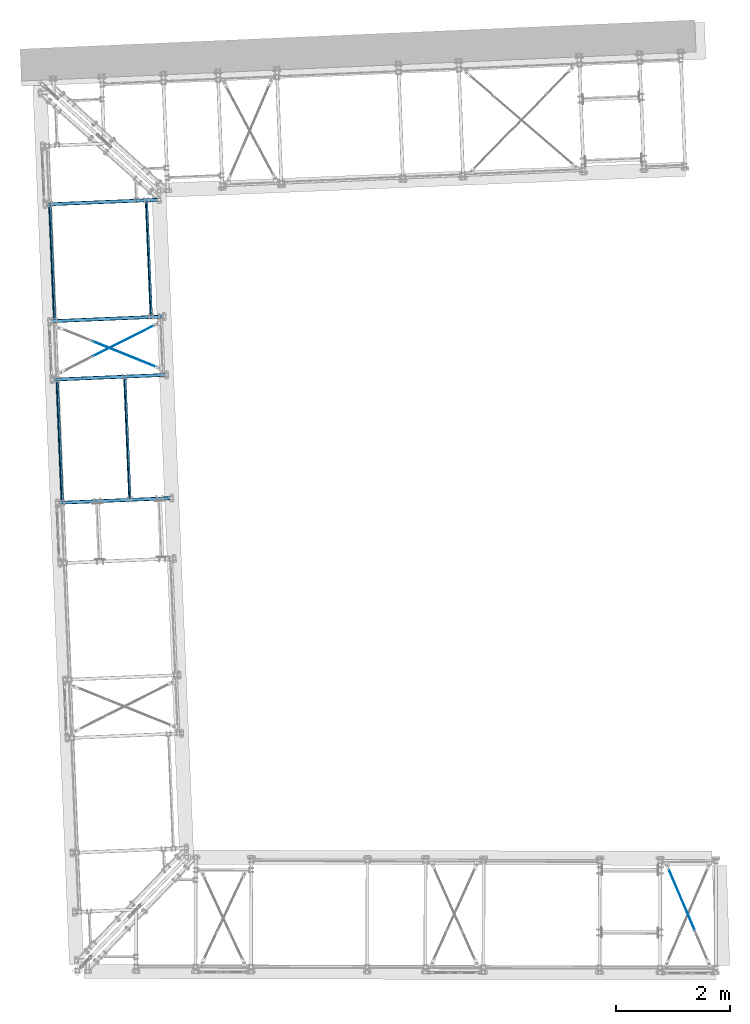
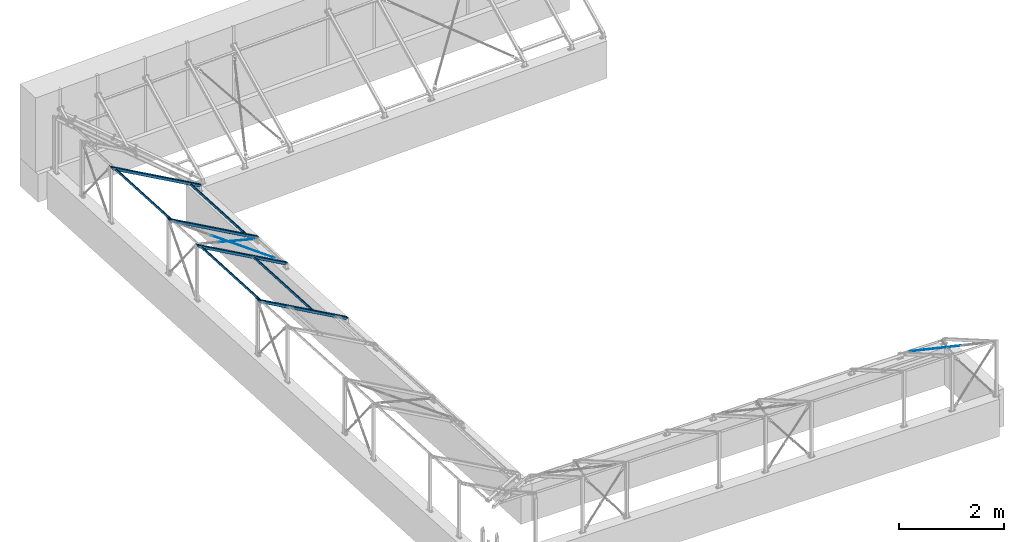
# One storey, part 13 of 288: 11 members, 52 openings.
"""IFC2X3 building model written with IfcOpenShell, lengths in millimetres."""

from ifc_helpers import new_model, entity, si_unit, converted_unit, frame, frame_2d, origin, origin_with_axes, origin_2d, place, context, project, spatial, hollow_rectangle, circle, extrude, clip, halfspace, material, element, save


model = new_model("IFC2X3")

# Units and contexts
model_context = context("Model", 3, precision=1e-09, world=origin_with_axes())
ifc_project = project(units=[si_unit("LENGTHUNIT", "METRE", prefix="MILLI"), si_unit("AREAUNIT", "SQUARE_METRE"), si_unit("VOLUMEUNIT", "CUBIC_METRE"), converted_unit("PLANEANGLEUNIT", "DEGREE", entity("IfcPlaneAngleMeasure", 0.01745329), si_unit("PLANEANGLEUNIT", "RADIAN"), dimensions=[0, 0, 0, 0, 0, 0, 0])], contexts=[model_context])

# Site, building, storey
site_placement = place(None, origin_with_axes())
site = spatial("IfcSite", under=ifc_project, at=site_placement, Name="Remont ?wietlik?w nad MC w NCPP w Opolu", CompositionType="ELEMENT")
building_placement = place(site_placement, origin_with_axes())
building = spatial("IfcBuilding", under=site, at=building_placement, Name="Konstrukcja 1", CompositionType="ELEMENT")
storey_placement = place(building_placement, origin_with_axes())
storey = spatial("IfcBuildingStorey", under=building, at=storey_placement, Name="Default Storey", CompositionType="ELEMENT", Elevation=0.0)

# Members
ifc_material_1 = material(Name="S235")
member_1_placement = place(None, frame((1184.094835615, 11400.041380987, 237.072428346), z_axis=(0.041662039, -0.99913176, -1.7445e-05), x_axis=(0.8652733, 0.036089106, -0.499999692)))
element("IfcMember", 1, at=member_1_placement, inside=storey, material=ifc_material_1, Name="TubeBracing", ObjectType="TubeBracing", context=model_context, shape_type="SweptSolid", body=[
    extrude(hollow_rectangle(XDim=40.0, YDim=40.0, WallThickness=3.0, InnerFilletRadius=3.0, OuterFilletRadius=6.0, at=origin_2d()), origin(), (0.0, 0.0, -1.0), 1973.670434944),
])
member_2_placement = place(None, frame((809.588399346, 8191.426792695, 533.692879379), z_axis=(0.041662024, -0.999131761, -1.7472e-05), x_axis=(0.8652733, 0.036089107, -0.499999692)))
element("IfcMember", 2, at=member_2_placement, inside=storey, material=ifc_material_1, Name="TubeBracing", ObjectType="TubeBracing", context=model_context, shape_type="SweptSolid", body=[
    extrude(hollow_rectangle(XDim=40.0, YDim=40.0, WallThickness=3.0, InnerFilletRadius=3.0, OuterFilletRadius=6.0, at=origin_2d()), origin(), (0.0, 0.0, -1.0), 2086.386549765),
])

# Member, openings
member_3_placement = place(None, frame((-626.530673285, 10258.763054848, 1312.4263718), z_axis=(0.8652733, 0.036089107, -0.499999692), x_axis=(-0.499565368, -0.020835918, -0.866025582)))
member_3 = element("IfcMember", 3, at=member_3_placement, inside=storey, material=ifc_material_1, Name="Horizontal_Beam", ObjectType="Horizontal_Beam", context=model_context, shape_type="Clipping", body=[
    clip(clip(extrude(hollow_rectangle(XDim=60.0, YDim=60.0, WallThickness=3.0, InnerFilletRadius=3.0, OuterFilletRadius=6.0, at=origin_2d()), origin(), (0.0, 0.0, 1.0), 2454.508604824), halfspace(frame((581.173489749, -10275.960605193, 1091.478625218), z_axis=(-0.866025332, 1.05e-07, 0.500000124), x_axis=(1.21e-07, 1.0, 0.0)), True)), halfspace(frame((1461.054439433, -10275.960711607, 1561.976205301), z_axis=(-0.500000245, 0.0, -0.866025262), x_axis=(-1.21e-07, -1.0, 0.0)), True)),
])
opening_1_placement = place(member_3_placement, frame((0.044184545, -26.499966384, 151.778169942), z_axis=(0.0, 1.0, 4.2e-07), x_axis=(-1.0, 0.0, 0.0)))
element("IfcOpeningElement", 4, at=opening_1_placement, cuts=member_3, ObjectType="Opening", context=model_context, shape_type="SweptSolid", body=[
    extrude(circle(Radius=7.001, at=frame_2d((-4e-09, -7.001), x_axis=(1.0, 0.0))), origin(), (0.0, 0.0, -1.0), 4.000039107),
])
opening_2_placement = place(member_3_placement, frame((0.044184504, -26.500000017, 231.778169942), z_axis=(0.0, 1.0, 4.2e-07), x_axis=(-1.0, 0.0, 0.0)))
element("IfcOpeningElement", 5, at=opening_2_placement, cuts=member_3, ObjectType="Opening", context=model_context, shape_type="SweptSolid", body=[
    extrude(circle(Radius=7.001, at=frame_2d((-4e-09, -7.001), x_axis=(1.0, 0.0))), origin(), (0.0, 0.0, -1.0), 4.000039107),
])
opening_3_placement = place(member_3_placement, frame((0.044184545, 30.500033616, 151.778193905), z_axis=(0.0, 1.0, 4.2e-07), x_axis=(-1.0, 0.0, 0.0)))
element("IfcOpeningElement", 6, at=opening_3_placement, cuts=member_3, ObjectType="Opening", context=model_context, shape_type="SweptSolid", body=[
    extrude(circle(Radius=7.001, at=frame_2d((-4e-09, -7.001), x_axis=(1.0, 0.0))), origin(), (0.0, 0.0, -1.0), 4.000039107),
])
opening_4_placement = place(member_3_placement, frame((0.044184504, 30.499999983, 231.778193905), z_axis=(0.0, 1.0, 4.2e-07), x_axis=(-1.0, 0.0, 0.0)))
element("IfcOpeningElement", 7, at=opening_4_placement, cuts=member_3, ObjectType="Opening", context=model_context, shape_type="SweptSolid", body=[
    extrude(circle(Radius=7.001, at=frame_2d((-4e-09, -7.001), x_axis=(1.0, 0.0))), origin(), (0.0, 0.0, -1.0), 4.000039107),
])
opening_5_placement = place(member_3_placement, frame((2.979524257, -26.499966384, 2312.551271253), z_axis=(0.0, 1.0, 4.2e-07), x_axis=(-1.0, 0.0, 0.0)))
element("IfcOpeningElement", 8, at=opening_5_placement, cuts=member_3, ObjectType="Opening", context=model_context, shape_type="SweptSolid", body=[
    extrude(circle(Radius=7.001, at=frame_2d((-4e-09, -7.001), x_axis=(1.0, 0.0))), origin(), (0.0, 0.0, -1.0), 4.000039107),
])
opening_6_placement = place(member_3_placement, frame((2.979524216, -26.500000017, 2392.551271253), z_axis=(0.0, 1.0, 4.2e-07), x_axis=(-1.0, 0.0, 0.0)))
element("IfcOpeningElement", 9, at=opening_6_placement, cuts=member_3, ObjectType="Opening", context=model_context, shape_type="SweptSolid", body=[
    extrude(circle(Radius=7.001, at=frame_2d((-4e-09, -7.001), x_axis=(1.0, 0.0))), origin(), (0.0, 0.0, -1.0), 4.000039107),
])
opening_7_placement = place(member_3_placement, frame((2.979524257, 30.500033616, 2312.551295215), z_axis=(0.0, 1.0, 4.2e-07), x_axis=(-1.0, 0.0, 0.0)))
element("IfcOpeningElement", 10, at=opening_7_placement, cuts=member_3, ObjectType="Opening", context=model_context, shape_type="SweptSolid", body=[
    extrude(circle(Radius=7.001, at=frame_2d((-4e-09, -7.001), x_axis=(1.0, 0.0))), origin(), (0.0, 0.0, -1.0), 4.000039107),
])
opening_8_placement = place(member_3_placement, frame((2.979524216, 30.499999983, 2392.551295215), z_axis=(0.0, 1.0, 4.2e-07), x_axis=(-1.0, 0.0, 0.0)))
element("IfcOpeningElement", 11, at=opening_8_placement, cuts=member_3, ObjectType="Opening", context=model_context, shape_type="SweptSolid", body=[
    extrude(circle(Radius=7.001, at=frame_2d((-4e-09, -7.001), x_axis=(1.0, 0.0))), origin(), (0.0, 0.0, -1.0), 4.000039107),
])
opening_9_placement = place(member_3_placement, frame((-0.073963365, -26.499966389, 1526.394681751), z_axis=(0.0, 1.0, 4.2e-07), x_axis=(-1.0, 0.0, 0.0)))
element("IfcOpeningElement", 12, at=opening_9_placement, cuts=member_3, ObjectType="Opening", context=model_context, shape_type="SweptSolid", body=[
    extrude(circle(Radius=9.001, at=frame_2d((-5e-09, -9.001), x_axis=(1.0, 0.0))), origin(), (0.0, 0.0, -1.0), 4.000040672),
])
opening_10_placement = place(member_3_placement, frame((-0.073963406, -26.500000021, 1606.394681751), z_axis=(0.0, 1.0, 4.2e-07), x_axis=(-1.0, 0.0, 0.0)))
element("IfcOpeningElement", 13, at=opening_10_placement, cuts=member_3, ObjectType="Opening", context=model_context, shape_type="SweptSolid", body=[
    extrude(circle(Radius=9.001, at=frame_2d((-5e-09, -9.001), x_axis=(1.0, 0.0))), origin(), (0.0, 0.0, -1.0), 4.000040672),
])
opening_11_placement = place(member_3_placement, frame((-0.073963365, 30.500033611, 1526.394705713), z_axis=(0.0, 1.0, 4.2e-07), x_axis=(-1.0, 0.0, 0.0)))
element("IfcOpeningElement", 14, at=opening_11_placement, cuts=member_3, ObjectType="Opening", context=model_context, shape_type="SweptSolid", body=[
    extrude(circle(Radius=9.001, at=frame_2d((-5e-09, -9.001), x_axis=(1.0, 0.0))), origin(), (0.0, 0.0, -1.0), 4.000040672),
])
opening_12_placement = place(member_3_placement, frame((-0.073963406, 30.499999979, 1606.394705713), z_axis=(0.0, 1.0, 4.2e-07), x_axis=(-1.0, 0.0, 0.0)))
element("IfcOpeningElement", 15, at=opening_12_placement, cuts=member_3, ObjectType="Opening", context=model_context, shape_type="SweptSolid", body=[
    extrude(circle(Radius=9.001, at=frame_2d((-5e-09, -9.001), x_axis=(1.0, 0.0))), origin(), (0.0, 0.0, -1.0), 4.000040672),
])

member_4_placement = place(None, frame((-669.279132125, 11283.707195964, 1312.426367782), z_axis=(0.865273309, 0.036088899, -0.499999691), x_axis=(-0.499565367, -0.020835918, -0.866025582)))
member_4 = element("IfcMember", 16, at=member_4_placement, inside=storey, material=ifc_material_1, Name="Horizontal_Beam", ObjectType="Horizontal_Beam", context=model_context, shape_type="Clipping", body=[
    clip(clip(extrude(hollow_rectangle(XDim=60.0, YDim=60.0, WallThickness=3.0, InnerFilletRadius=3.0, OuterFilletRadius=6.0, at=origin_2d()), origin(), (0.0, 0.0, 1.0), 2454.508596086), halfspace(frame((1461.053833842, -11301.795720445, 1561.97746317), z_axis=(-0.500000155, 0.0, -0.866025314), x_axis=(0.0, -1.0, 0.0)), True)), halfspace(frame((581.175383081, -11301.795719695, 1091.479682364), z_axis=(-0.866025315, 0.0, 0.500000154), x_axis=(0.0, 1.0, 0.0)), True)),
])
opening_13_placement = place(member_4_placement, frame((0.04418339, -26.499983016, 151.778168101), z_axis=(0.0, 1.0, 2.12e-07), x_axis=(-1.0, 0.0, 0.0)))
element("IfcOpeningElement", 17, at=opening_13_placement, cuts=member_4, ObjectType="Opening", context=model_context, shape_type="SweptSolid", body=[
    extrude(circle(Radius=7.001, at=frame_2d((0.0, -7.001), x_axis=(1.0, 0.0))), origin(), (0.0, 0.0, -1.0), 4.000019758),
])
opening_14_placement = place(member_4_placement, frame((0.04418339, -26.500000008, 231.778168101), z_axis=(0.0, 1.0, 2.12e-07), x_axis=(-1.0, 0.0, 0.0)))
element("IfcOpeningElement", 18, at=opening_14_placement, cuts=member_4, ObjectType="Opening", context=model_context, shape_type="SweptSolid", body=[
    extrude(circle(Radius=7.001, at=frame_2d((0.0, -7.001), x_axis=(1.0, 0.0))), origin(), (0.0, 0.0, -1.0), 4.000019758),
])
opening_15_placement = place(member_4_placement, frame((0.04418339, 30.500016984, 151.778180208), z_axis=(0.0, 1.0, 2.12e-07), x_axis=(-1.0, 0.0, 0.0)))
element("IfcOpeningElement", 19, at=opening_15_placement, cuts=member_4, ObjectType="Opening", context=model_context, shape_type="SweptSolid", body=[
    extrude(circle(Radius=7.001, at=frame_2d((0.0, -7.001), x_axis=(1.0, 0.0))), origin(), (0.0, 0.0, -1.0), 4.000019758),
])
opening_16_placement = place(member_4_placement, frame((0.04418339, 30.499999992, 231.778180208), z_axis=(0.0, 1.0, 2.12e-07), x_axis=(-1.0, 0.0, 0.0)))
element("IfcOpeningElement", 20, at=opening_16_placement, cuts=member_4, ObjectType="Opening", context=model_context, shape_type="SweptSolid", body=[
    extrude(circle(Radius=7.001, at=frame_2d((0.0, -7.001), x_axis=(1.0, 0.0))), origin(), (0.0, 0.0, -1.0), 4.000019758),
])
opening_17_placement = place(member_4_placement, frame((2.90592252, -26.499983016, 2312.551057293), z_axis=(0.0, 1.0, 2.12e-07), x_axis=(-1.0, 0.0, 0.0)))
element("IfcOpeningElement", 21, at=opening_17_placement, cuts=member_4, ObjectType="Opening", context=model_context, shape_type="SweptSolid", body=[
    extrude(circle(Radius=7.001, at=frame_2d((0.0, -7.001), x_axis=(1.0, 0.0))), origin(), (0.0, 0.0, -1.0), 4.000019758),
])
opening_18_placement = place(member_4_placement, frame((2.905922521, -26.500000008, 2392.551057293), z_axis=(0.0, 1.0, 2.12e-07), x_axis=(-1.0, 0.0, 0.0)))
element("IfcOpeningElement", 22, at=opening_18_placement, cuts=member_4, ObjectType="Opening", context=model_context, shape_type="SweptSolid", body=[
    extrude(circle(Radius=7.001, at=frame_2d((0.0, -7.001), x_axis=(1.0, 0.0))), origin(), (0.0, 0.0, -1.0), 4.000019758),
])
opening_19_placement = place(member_4_placement, frame((2.90592252, 30.500016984, 2312.5510694), z_axis=(0.0, 1.0, 2.12e-07), x_axis=(-1.0, 0.0, 0.0)))
element("IfcOpeningElement", 23, at=opening_19_placement, cuts=member_4, ObjectType="Opening", context=model_context, shape_type="SweptSolid", body=[
    extrude(circle(Radius=7.001, at=frame_2d((0.0, -7.001), x_axis=(1.0, 0.0))), origin(), (0.0, 0.0, -1.0), 4.000019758),
])
opening_20_placement = place(member_4_placement, frame((2.905922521, 30.499999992, 2392.5510694), z_axis=(0.0, 1.0, 2.12e-07), x_axis=(-1.0, 0.0, 0.0)))
element("IfcOpeningElement", 24, at=opening_20_placement, cuts=member_4, ObjectType="Opening", context=model_context, shape_type="SweptSolid", body=[
    extrude(circle(Radius=7.001, at=frame_2d((0.0, -7.001), x_axis=(1.0, 0.0))), origin(), (0.0, 0.0, -1.0), 4.000019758),
])
opening_21_placement = place(member_4_placement, frame((2.958952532, -26.499983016, 2112.551056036), z_axis=(0.0, 1.0, 2.12e-07), x_axis=(-1.0, 0.0, 0.0)))
element("IfcOpeningElement", 25, at=opening_21_placement, cuts=member_4, ObjectType="Opening", context=model_context, shape_type="SweptSolid", body=[
    extrude(circle(Radius=7.001, at=frame_2d((0.0, -7.001), x_axis=(1.0, 0.0))), origin(), (0.0, 0.0, -1.0), 4.000019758),
])
opening_22_placement = place(member_4_placement, frame((2.958952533, -26.500000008, 2192.551056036), z_axis=(0.0, 1.0, 2.12e-07), x_axis=(-1.0, 0.0, 0.0)))
element("IfcOpeningElement", 26, at=opening_22_placement, cuts=member_4, ObjectType="Opening", context=model_context, shape_type="SweptSolid", body=[
    extrude(circle(Radius=7.001, at=frame_2d((0.0, -7.001), x_axis=(1.0, 0.0))), origin(), (0.0, 0.0, -1.0), 4.000019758),
])
opening_23_placement = place(member_4_placement, frame((2.958952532, 30.500016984, 2112.551068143), z_axis=(0.0, 1.0, 2.12e-07), x_axis=(-1.0, 0.0, 0.0)))
element("IfcOpeningElement", 27, at=opening_23_placement, cuts=member_4, ObjectType="Opening", context=model_context, shape_type="SweptSolid", body=[
    extrude(circle(Radius=7.001, at=frame_2d((0.0, -7.001), x_axis=(1.0, 0.0))), origin(), (0.0, 0.0, -1.0), 4.000019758),
])
opening_24_placement = place(member_4_placement, frame((2.958952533, 30.499999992, 2192.551068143), z_axis=(0.0, 1.0, 2.12e-07), x_axis=(-1.0, 0.0, 0.0)))
element("IfcOpeningElement", 28, at=opening_24_placement, cuts=member_4, ObjectType="Opening", context=model_context, shape_type="SweptSolid", body=[
    extrude(circle(Radius=7.001, at=frame_2d((0.0, -7.001), x_axis=(1.0, 0.0))), origin(), (0.0, 0.0, -1.0), 4.000019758),
])

member_5_placement = place(None, frame((-754.77606115, 13333.595431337, 1312.426370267), z_axis=(0.865273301, 0.036089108, -0.499999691), x_axis=(-0.499565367, -0.020835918, -0.866025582)))
member_5 = element("IfcMember", 29, at=member_5_placement, inside=storey, material=ifc_material_1, Name="Horizontal_Beam", ObjectType="Horizontal_Beam", context=model_context, shape_type="Clipping", body=[
    clip(clip(extrude(hollow_rectangle(XDim=60.0, YDim=60.0, WallThickness=3.0, InnerFilletRadius=3.0, OuterFilletRadius=6.0, at=origin_2d()), origin(), (0.0, 0.0, 1.0), 2454.508604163), halfspace(frame((581.172913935, -13353.466255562, 1091.478291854), z_axis=(-0.866025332, 1.05e-07, 0.500000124), x_axis=(1.22e-07, 1.0, 0.0)), True)), halfspace(frame((1461.054630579, -13353.466362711, 1561.975871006), z_axis=(-0.500000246, 0.0, -0.866025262), x_axis=(-1.22e-07, -1.0, 0.0)), True)),
])
opening_25_placement = place(member_5_placement, frame((0.044183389, -26.499966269, 151.777520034), z_axis=(0.0, 1.0, 4.22e-07), x_axis=(-1.0, 0.0, 0.0)))
element("IfcOpeningElement", 30, at=opening_25_placement, cuts=member_5, ObjectType="Opening", context=model_context, shape_type="SweptSolid", body=[
    extrude(circle(Radius=7.001, at=frame_2d((0.0, -7.001), x_axis=(1.0, 0.0))), origin(), (0.0, 0.0, -1.0), 4.000039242),
])
opening_26_placement = place(member_5_placement, frame((0.044183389, -26.500000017, 231.777520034), z_axis=(0.0, 1.0, 4.22e-07), x_axis=(-1.0, 0.0, 0.0)))
element("IfcOpeningElement", 31, at=opening_26_placement, cuts=member_5, ObjectType="Opening", context=model_context, shape_type="SweptSolid", body=[
    extrude(circle(Radius=7.001, at=frame_2d((0.0, -7.001), x_axis=(1.0, 0.0))), origin(), (0.0, 0.0, -1.0), 4.000039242),
])
opening_27_placement = place(member_5_placement, frame((0.044183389, 30.500033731, 151.777544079), z_axis=(0.0, 1.0, 4.22e-07), x_axis=(-1.0, 0.0, 0.0)))
element("IfcOpeningElement", 32, at=opening_27_placement, cuts=member_5, ObjectType="Opening", context=model_context, shape_type="SweptSolid", body=[
    extrude(circle(Radius=7.001, at=frame_2d((0.0, -7.001), x_axis=(1.0, 0.0))), origin(), (0.0, 0.0, -1.0), 4.000039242),
])
opening_28_placement = place(member_5_placement, frame((0.044183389, 30.499999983, 231.777544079), z_axis=(0.0, 1.0, 4.22e-07), x_axis=(-1.0, 0.0, 0.0)))
element("IfcOpeningElement", 33, at=opening_28_placement, cuts=member_5, ObjectType="Opening", context=model_context, shape_type="SweptSolid", body=[
    extrude(circle(Radius=7.001, at=frame_2d((0.0, -7.001), x_axis=(1.0, 0.0))), origin(), (0.0, 0.0, -1.0), 4.000039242),
])
opening_29_placement = place(member_5_placement, frame((2.864380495, -26.499966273, 2114.550627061), z_axis=(0.0, 1.0, 4.22e-07), x_axis=(-1.0, 0.0, 0.0)))
element("IfcOpeningElement", 34, at=opening_29_placement, cuts=member_5, ObjectType="Opening", context=model_context, shape_type="SweptSolid", body=[
    extrude(circle(Radius=9.001, at=frame_2d((0.0, -9.001), x_axis=(1.0, 0.0))), origin(), (0.0, 0.0, -1.0), 4.000040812),
])
opening_30_placement = place(member_5_placement, frame((2.864380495, -26.500000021, 2194.550627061), z_axis=(0.0, 1.0, 4.22e-07), x_axis=(-1.0, 0.0, 0.0)))
element("IfcOpeningElement", 35, at=opening_30_placement, cuts=member_5, ObjectType="Opening", context=model_context, shape_type="SweptSolid", body=[
    extrude(circle(Radius=9.001, at=frame_2d((0.0, -9.001), x_axis=(1.0, 0.0))), origin(), (0.0, 0.0, -1.0), 4.000040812),
])
opening_31_placement = place(member_5_placement, frame((2.864380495, 30.500033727, 2114.550651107), z_axis=(0.0, 1.0, 4.22e-07), x_axis=(-1.0, 0.0, 0.0)))
element("IfcOpeningElement", 36, at=opening_31_placement, cuts=member_5, ObjectType="Opening", context=model_context, shape_type="SweptSolid", body=[
    extrude(circle(Radius=9.001, at=frame_2d((0.0, -9.001), x_axis=(1.0, 0.0))), origin(), (0.0, 0.0, -1.0), 4.000040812),
])
opening_32_placement = place(member_5_placement, frame((2.864380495, 30.499999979, 2194.550651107), z_axis=(0.0, 1.0, 4.22e-07), x_axis=(-1.0, 0.0, 0.0)))
element("IfcOpeningElement", 37, at=opening_32_placement, cuts=member_5, ObjectType="Opening", context=model_context, shape_type="SweptSolid", body=[
    extrude(circle(Radius=9.001, at=frame_2d((0.0, -9.001), x_axis=(1.0, 0.0))), origin(), (0.0, 0.0, -1.0), 4.000040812),
])
opening_33_placement = place(member_5_placement, frame((2.958952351, -26.499966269, 1912.55062711), z_axis=(0.0, 1.0, 4.22e-07), x_axis=(-1.0, 0.0, 0.0)))
element("IfcOpeningElement", 38, at=opening_33_placement, cuts=member_5, ObjectType="Opening", context=model_context, shape_type="SweptSolid", body=[
    extrude(circle(Radius=7.001, at=frame_2d((0.0, -7.001), x_axis=(1.0, 0.0))), origin(), (0.0, 0.0, -1.0), 4.000039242),
])
opening_34_placement = place(member_5_placement, frame((2.958952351, -26.500000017, 1992.55062711), z_axis=(0.0, 1.0, 4.22e-07), x_axis=(-1.0, 0.0, 0.0)))
element("IfcOpeningElement", 39, at=opening_34_placement, cuts=member_5, ObjectType="Opening", context=model_context, shape_type="SweptSolid", body=[
    extrude(circle(Radius=7.001, at=frame_2d((0.0, -7.001), x_axis=(1.0, 0.0))), origin(), (0.0, 0.0, -1.0), 4.000039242),
])
opening_35_placement = place(member_5_placement, frame((2.958952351, 30.500033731, 1912.550651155), z_axis=(0.0, 1.0, 4.22e-07), x_axis=(-1.0, 0.0, 0.0)))
element("IfcOpeningElement", 40, at=opening_35_placement, cuts=member_5, ObjectType="Opening", context=model_context, shape_type="SweptSolid", body=[
    extrude(circle(Radius=7.001, at=frame_2d((0.0, -7.001), x_axis=(1.0, 0.0))), origin(), (0.0, 0.0, -1.0), 4.000039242),
])
opening_36_placement = place(member_5_placement, frame((2.958952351, 30.499999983, 1992.550651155), z_axis=(0.0, 1.0, 4.22e-07), x_axis=(-1.0, 0.0, 0.0)))
element("IfcOpeningElement", 41, at=opening_36_placement, cuts=member_5, ObjectType="Opening", context=model_context, shape_type="SweptSolid", body=[
    extrude(circle(Radius=7.001, at=frame_2d((0.0, -7.001), x_axis=(1.0, 0.0))), origin(), (0.0, 0.0, -1.0), 4.000039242),
])

# Members
member_6_placement = place(None, frame((-511.011116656, 11329.342180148, 1220.056450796), z_axis=(0.041662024, -0.999131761, -1.7472e-05), x_axis=(0.8652733, 0.036089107, -0.499999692)))
element("IfcMember", 42, at=member_6_placement, inside=storey, material=ifc_material_1, Name="TubeBracing", ObjectType="TubeBracing", context=model_context, shape_type="SweptSolid", body=[
    extrude(hollow_rectangle(XDim=40.0, YDim=40.0, WallThickness=3.0, InnerFilletRadius=3.0, OuterFilletRadius=6.0, at=origin_2d()), origin(), (0.0, 0.0, -1.0), 1973.670434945),
])
member_7_placement = place(None, frame((-378.100020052, 8141.890288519, 1220.000712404), z_axis=(0.041662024, -0.999131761, -1.7472e-05), x_axis=(0.8652733, 0.036089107, -0.499999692)))
element("IfcMember", 43, at=member_7_placement, inside=storey, material=ifc_material_1, Name="TubeBracing", ObjectType="TubeBracing", context=model_context, shape_type="SweptSolid", body=[
    extrude(hollow_rectangle(XDim=40.0, YDim=40.0, WallThickness=3.0, InnerFilletRadius=3.0, OuterFilletRadius=6.0, at=origin_2d()), origin(), (0.0, 0.0, -1.0), 2086.386549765),
])

# Member, openings
member_8_placement = place(None, frame((-536.336659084, 8096.256630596, 1312.426370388), z_axis=(-0.865273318, -0.036088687, 0.499999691), x_axis=(-0.499565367, -0.020835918, -0.866025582)))
member_8 = element("IfcMember", 44, at=member_8_placement, inside=storey, material=ifc_material_1, Name="Horizontal_Beam", ObjectType="Horizontal_Beam", context=model_context, shape_type="Clipping", body=[
    clip(clip(extrude(hollow_rectangle(XDim=60.0, YDim=60.0, WallThickness=3.0, InnerFilletRadius=3.0, OuterFilletRadius=6.0, at=origin_2d()), origin(), (0.0, 0.0, -1.0), 2454.508604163), halfspace(frame((1461.053323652, 8111.573743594, -1561.978134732), z_axis=(-0.500000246, 0.0, 0.866025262), x_axis=(1.22e-07, 1.0, 0.0)), True)), halfspace(frame((581.176834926, 8111.573850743, -1091.480555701), z_axis=(-0.866025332, 1.05e-07, -0.500000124), x_axis=(-1.22e-07, -1.0, 0.0)), True)),
])
opening_37_placement = place(member_8_placement, frame((7.044933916, 26.499732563, -144.777628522), z_axis=(-2.0054e-05, -1.0, 4.2e-07), x_axis=(1.0, -2.0054e-05, 0.0)))
element("IfcOpeningElement", 45, at=opening_37_placement, cuts=member_8, ObjectType="Opening", context=model_context, shape_type="SweptSolid", body=[
    extrude(circle(Radius=7.001, at=frame_2d((-7.001, -4e-09), x_axis=(1.0, 0.0))), origin(), (0.0, 0.0, -1.0), 4.000264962),
])
opening_38_placement = place(member_8_placement, frame((7.043790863, -30.500267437, -144.77760456), z_axis=(-2.0054e-05, -1.0, 4.2e-07), x_axis=(1.0, -2.0054e-05, 0.0)))
element("IfcOpeningElement", 46, at=opening_38_placement, cuts=member_8, ObjectType="Opening", context=model_context, shape_type="SweptSolid", body=[
    extrude(circle(Radius=7.001, at=frame_2d((-7.001, -4e-09), x_axis=(1.0, 0.0))), origin(), (0.0, 0.0, -1.0), 4.000264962),
])
opening_39_placement = place(member_8_placement, frame((7.044933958, 26.499732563, -224.777628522), z_axis=(-2.0054e-05, -1.0, 4.2e-07), x_axis=(1.0, -2.0054e-05, 0.0)))
element("IfcOpeningElement", 47, at=opening_39_placement, cuts=member_8, ObjectType="Opening", context=model_context, shape_type="SweptSolid", body=[
    extrude(circle(Radius=7.001, at=frame_2d((-7.001, -4e-09), x_axis=(1.0, 0.0))), origin(), (0.0, 0.0, -1.0), 4.000264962),
])
opening_40_placement = place(member_8_placement, frame((7.043790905, -30.500267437, -224.77760456), z_axis=(-2.0054e-05, -1.0, 4.2e-07), x_axis=(1.0, -2.0054e-05, 0.0)))
element("IfcOpeningElement", 48, at=opening_40_placement, cuts=member_8, ObjectType="Opening", context=model_context, shape_type="SweptSolid", body=[
    extrude(circle(Radius=7.001, at=frame_2d((-7.001, -4e-09), x_axis=(1.0, 0.0))), origin(), (0.0, 0.0, -1.0), 4.000264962),
])
opening_41_placement = place(member_8_placement, frame((0.022928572, 26.5, -1524.395145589), z_axis=(0.0, -1.0, 0.0), x_axis=(1.0, 0.0, 0.0)))
element("IfcOpeningElement", 49, at=opening_41_placement, cuts=member_8, ObjectType="Opening", context=model_context, shape_type="SweptSolid", body=[
    extrude(circle(Radius=7.001, at=frame_2d((0.0, 7.001), x_axis=(1.0, 0.0))), origin(), (0.0, 0.0, -1.0), 4.0),
])
opening_42_placement = place(member_8_placement, frame((0.022928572, 26.5, -1604.395145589), z_axis=(0.0, -1.0, 0.0), x_axis=(1.0, 0.0, 0.0)))
element("IfcOpeningElement", 50, at=opening_42_placement, cuts=member_8, ObjectType="Opening", context=model_context, shape_type="SweptSolid", body=[
    extrude(circle(Radius=7.001, at=frame_2d((0.0, 7.001), x_axis=(1.0, 0.0))), origin(), (0.0, 0.0, -1.0), 4.0),
])
opening_43_placement = place(member_8_placement, frame((0.022928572, -30.5, -1524.395145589), z_axis=(0.0, -1.0, 0.0), x_axis=(1.0, 0.0, 0.0)))
element("IfcOpeningElement", 51, at=opening_43_placement, cuts=member_8, ObjectType="Opening", context=model_context, shape_type="SweptSolid", body=[
    extrude(circle(Radius=7.001, at=frame_2d((0.0, 7.001), x_axis=(1.0, 0.0))), origin(), (0.0, 0.0, -1.0), 4.0),
])
opening_44_placement = place(member_8_placement, frame((0.022928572, -30.5, -1604.395145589), z_axis=(0.0, -1.0, 0.0), x_axis=(1.0, 0.0, 0.0)))
element("IfcOpeningElement", 52, at=opening_44_placement, cuts=member_8, ObjectType="Opening", context=model_context, shape_type="SweptSolid", body=[
    extrude(circle(Radius=7.001, at=frame_2d((0.0, 7.001), x_axis=(1.0, 0.0))), origin(), (0.0, 0.0, -1.0), 4.0),
])
opening_45_placement = place(member_8_placement, frame((0.044184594, 26.5, -847.814419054), z_axis=(0.0, -1.0, 0.0), x_axis=(1.0, 0.0, 0.0)))
element("IfcOpeningElement", 53, at=opening_45_placement, cuts=member_8, ObjectType="Opening", context=model_context, shape_type="SweptSolid", body=[
    extrude(circle(Radius=9.001, at=frame_2d((0.0, 9.001), x_axis=(1.0, 0.0))), origin(), (0.0, 0.0, -1.0), 4.0),
])
opening_46_placement = place(member_8_placement, frame((0.044184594, 26.5, -967.814419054), z_axis=(0.0, -1.0, 0.0), x_axis=(1.0, 0.0, 0.0)))
element("IfcOpeningElement", 54, at=opening_46_placement, cuts=member_8, ObjectType="Opening", context=model_context, shape_type="SweptSolid", body=[
    extrude(circle(Radius=9.001, at=frame_2d((0.0, 9.001), x_axis=(1.0, 0.0))), origin(), (0.0, 0.0, -1.0), 4.0),
])
opening_47_placement = place(member_8_placement, frame((0.044184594, -30.5, -847.814419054), z_axis=(0.0, -1.0, 0.0), x_axis=(1.0, 0.0, 0.0)))
element("IfcOpeningElement", 55, at=opening_47_placement, cuts=member_8, ObjectType="Opening", context=model_context, shape_type="SweptSolid", body=[
    extrude(circle(Radius=9.001, at=frame_2d((0.0, 9.001), x_axis=(1.0, 0.0))), origin(), (0.0, 0.0, -1.0), 4.0),
])
opening_48_placement = place(member_8_placement, frame((0.044184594, -30.5, -967.814419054), z_axis=(0.0, -1.0, 0.0), x_axis=(1.0, 0.0, 0.0)))
element("IfcOpeningElement", 56, at=opening_48_placement, cuts=member_8, ObjectType="Opening", context=model_context, shape_type="SweptSolid", body=[
    extrude(circle(Radius=9.001, at=frame_2d((0.0, 9.001), x_axis=(1.0, 0.0))), origin(), (0.0, 0.0, -1.0), 4.0),
])
opening_49_placement = place(member_8_placement, frame((0.063877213, -30.5, -2158.813419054), z_axis=(0.0, 1.0, 0.0), x_axis=(0.0, 0.0, 1.0)))
element("IfcOpeningElement", 57, at=opening_49_placement, cuts=member_8, ObjectType="Opening", context=model_context, shape_type="SweptSolid", body=[
    extrude(circle(Radius=9.001, at=frame_2d((60.0, 0.0), x_axis=(1.0, 0.0))), origin(), (0.0, 0.0, 1.0), 4.0),
])
opening_50_placement = place(member_8_placement, frame((0.063877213, -30.5, -2158.813419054), z_axis=(0.0, 1.0, 0.0), x_axis=(0.0, 0.0, 1.0)))
element("IfcOpeningElement", 58, at=opening_50_placement, cuts=member_8, ObjectType="Opening", context=model_context, shape_type="SweptSolid", body=[
    extrude(circle(Radius=9.001, at=frame_2d((-60.0, 0.0), x_axis=(1.0, 0.0))), origin(), (0.0, 0.0, 1.0), 4.0),
])
opening_51_placement = place(member_8_placement, frame((0.063877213, 26.5, -2158.813419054), z_axis=(0.0, 1.0, 0.0), x_axis=(0.0, 0.0, 1.0)))
element("IfcOpeningElement", 59, at=opening_51_placement, cuts=member_8, ObjectType="Opening", context=model_context, shape_type="SweptSolid", body=[
    extrude(circle(Radius=9.001, at=frame_2d((60.0, 0.0), x_axis=(1.0, 0.0))), origin(), (0.0, 0.0, 1.0), 4.0),
])
opening_52_placement = place(member_8_placement, frame((0.063877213, 26.5, -2158.813419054), z_axis=(0.0, 1.0, 0.0), x_axis=(0.0, 0.0, 1.0)))
element("IfcOpeningElement", 60, at=opening_52_placement, cuts=member_8, ObjectType="Opening", context=model_context, shape_type="SweptSolid", body=[
    extrude(circle(Radius=9.001, at=frame_2d((-60.0, 0.0), x_axis=(1.0, 0.0))), origin(), (0.0, 0.0, 1.0), 4.0),
])

# Members
ifc_material_2 = material(Name="S275J2")
member_9_placement = place(None, frame((119.921081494, 10950.435121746, 873.317500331), z_axis=(-0.820057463, 0.331378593, 0.466576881), x_axis=(0.50076706, 0.020865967, 0.865330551)))
element("IfcMember", 61, at=member_9_placement, inside=storey, material=ifc_material_2, Name="Tension_Rod#2", ObjectType="Tension_Rod#2", context=model_context, shape_type="Clipping", body=[
    clip(clip(extrude(circle(Radius=6.0, at=origin_2d()), origin(), (0.0, 0.0, -1.0), 1550.159780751), halfspace(frame((-1044.252257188, -10202.540455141, -33.486281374), z_axis=(0.0, 0.0, -1.0), x_axis=(0.206963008, 0.978348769, 0.0)), True)), halfspace(frame((-1044.252257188, -10202.540455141, -1421.673499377), z_axis=(0.0, 0.0, 1.0), x_axis=(-0.206963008, -0.978348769, 0.0)), True)),
])
member_10_placement = place(None, frame((132.173680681, 10656.595343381, 873.312363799), z_axis=(-0.789622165, -0.398515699, 0.466564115), x_axis=(-0.500767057, -0.020865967, -0.865330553)))
element("IfcMember", 62, at=member_10_placement, inside=storey, material=ifc_material_2, Name="Tension_Rod#2", ObjectType="Tension_Rod#2", context=model_context, shape_type="Clipping", body=[
    clip(clip(extrude(circle(Radius=6.0, at=origin_2d()), origin(), (0.0, 0.0, -1.0), 1550.159781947), halfspace(frame((1044.252259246, 9884.315197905, -33.486281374), z_axis=(0.0, 0.0, -1.0), x_axis=(0.20699821, -0.978341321, 0.0)), True)), halfspace(frame((1044.252259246, 9884.315197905, -1421.673500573), z_axis=(0.0, 0.0, 1.0), x_axis=(-0.20699821, 0.978341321, 0.0)), True)),
])
member_11_placement = place(None, frame((10743.580495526, 556.853432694, 871.582241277), z_axis=(0.345362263, -0.812933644, 0.468896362), x_axis=(-0.001127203, -0.499998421, -0.866025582)))
element("IfcMember", 63, at=member_11_placement, inside=storey, material=ifc_material_2, Name="Tension_Rod#2", ObjectType="Tension_Rod#2", context=model_context, shape_type="Clipping", body=[
    clip(clip(extrude(circle(Radius=6.0, at=origin_2d()), origin(), (0.0, 0.0, -1.0), 1536.131986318), halfspace(frame((1045.348551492, -10097.467195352, -33.486281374), z_axis=(0.0, 0.0, -1.0), x_axis=(0.196542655, -0.980495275, 0.0)), True)), halfspace(frame((1045.348551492, -10097.467195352, -1407.645704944), z_axis=(0.0, 0.0, 1.0), x_axis=(-0.196542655, 0.980495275, 0.0)), True)),
])

save(model, "model.ifc")
